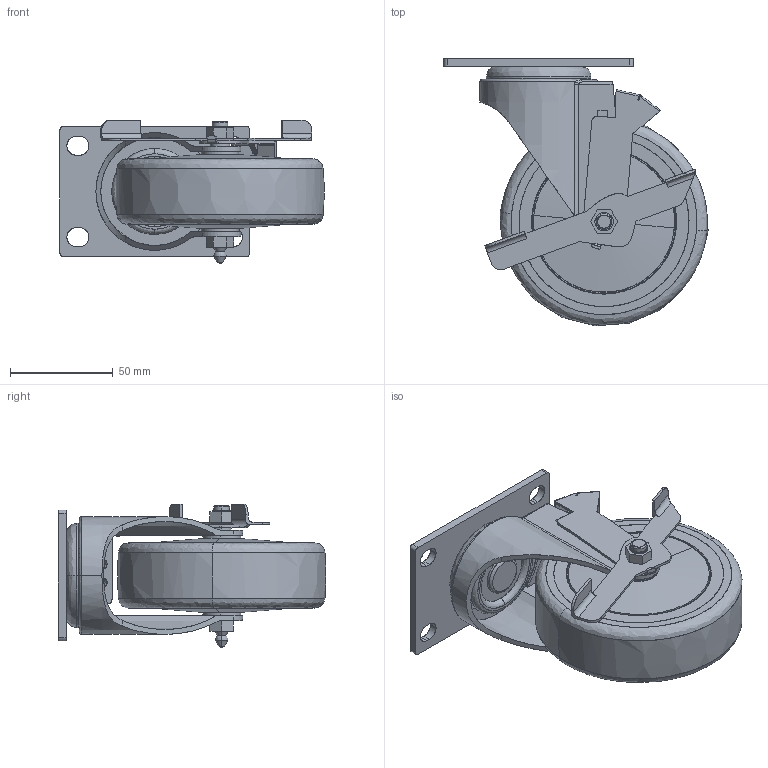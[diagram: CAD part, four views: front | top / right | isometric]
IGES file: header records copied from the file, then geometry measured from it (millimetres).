
Start section: SolidWorks IGES file using analytic representation for surfaces
Global section: file name: \\192.168.10.26\nimesh\Tyler Manz\Output\2024\2024-05-30\4'' Swivel Caster with Brake - Non Marking Polyurethane Tread\SCC-20S414-PPUB-TLB-BLACK 3D IGES.IGS; native system: SolidWorks 2016; preprocessor: SolidWorks 2016; author: kathan.gandhi; date: 240530.161103; units: inch
Bounding box: 128.32 x 129.91 x 69.95 mm (x, y, z)
Surface area: 96209.8 mm2 (no closed solid volume)
Topology: 0 solids, 0 shells, 428 faces, 6675 edges, 6675 vertices
Faces by surface type: bspline 260, revolution 168
